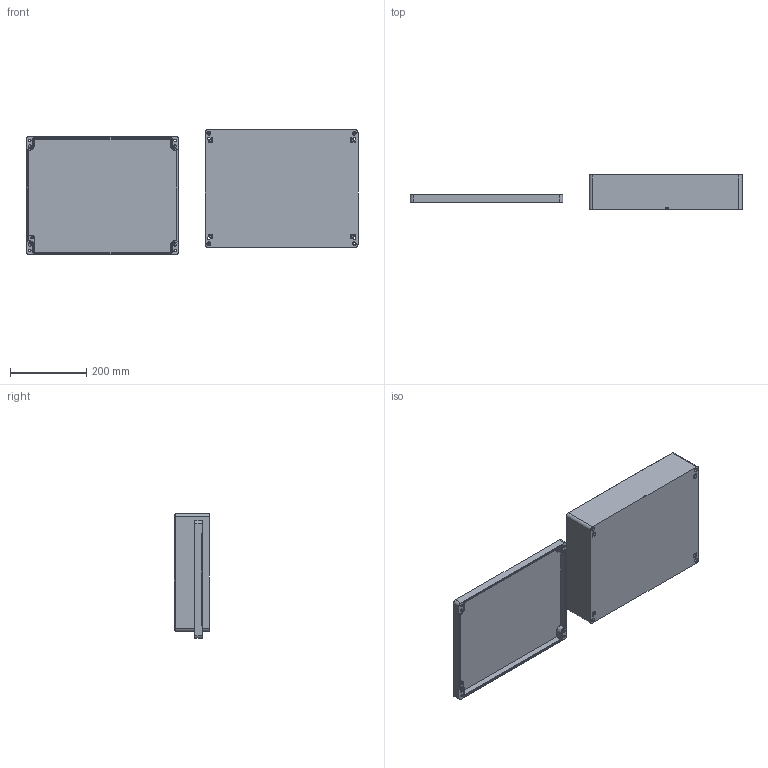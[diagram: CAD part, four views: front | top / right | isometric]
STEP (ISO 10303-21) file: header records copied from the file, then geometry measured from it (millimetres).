
FILE_DESCRIPTION (( 'STEP AP203' ), '1' );
FILE_NAME ('ZX-AL-314011_装配体.STEP', '2022-01-24T09:54:03', ( '微软用户' ), ( '微软中国' ), 'SwSTEP 2.0', 'SolidWorks 2020', '' );
FILE_SCHEMA (( 'CONFIG_CONTROL_DESIGN' ));
Length unit declared in the file: millimetre
Products named in the file (3): ZX-AL-314011_蚾饜极; ZX-AL-314011_奻; ZX-AL-314011_狟
Assembly tree (2 placements, depth 2):
  ZX-AL-314011_蚾饜极
    ZX-AL-314011_狟
    ZX-AL-314011_奻
Bounding box: 873 x 93 x 328.57 mm (x, y, z)
Volume: 1814041.8 mm3; surface area: 830450.9 mm2
Topology: 2 solids, 2 shells, 689 faces, 1850 edges, 1197 vertices
Faces by surface type: plane 342, cylinder 172, bspline 123, cone 52
Entity records: 27219 total; most frequent: CARTESIAN_POINT 10370, ORIENTED_EDGE 3656, DIRECTION 3026, EDGE_CURVE 1828, LINE 1232, VECTOR 1232, VERTEX_POINT 1197, AXIS2_PLACEMENT_3D 897
